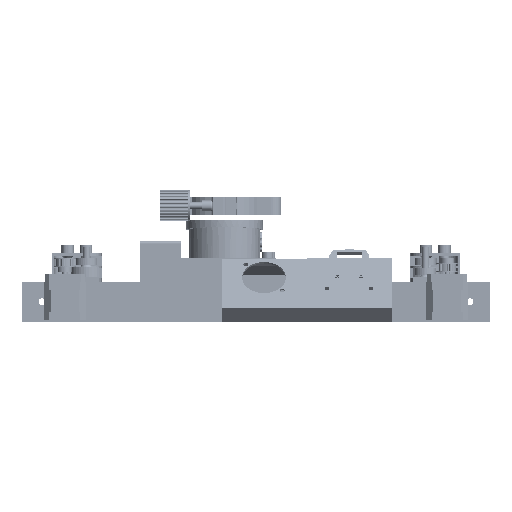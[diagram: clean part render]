
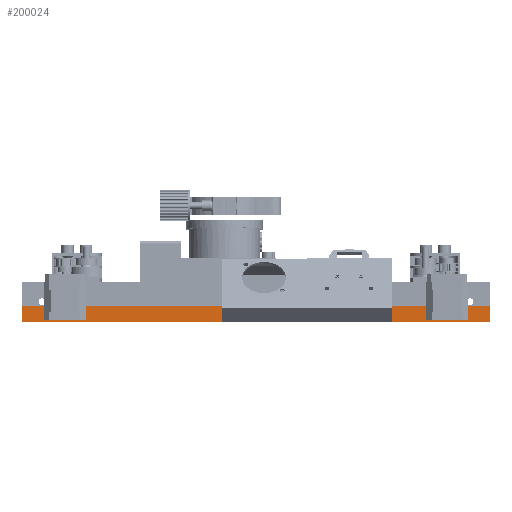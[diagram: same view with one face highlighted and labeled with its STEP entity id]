
A CAD part, front view. The second image highlights one B-rep face of the part: STEP entity #200024.
In plain terms, the highlighted planar face has unit normal (0, -1, 0).
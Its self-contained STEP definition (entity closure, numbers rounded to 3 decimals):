
#5244=FACE_OUTER_BOUND('',#19089,.T.);
#19089=EDGE_LOOP('',(#130773,#130774,#130775,#130776));
#36002=LINE('',#290052,#61293);
#36003=LINE('',#290055,#61294);
#36004=LINE('',#290057,#61295);
#36005=LINE('',#290058,#61296);
#61293=VECTOR('',#230589,10.);
#61294=VECTOR('',#230592,10.);
#61295=VECTOR('',#230593,10.);
#61296=VECTOR('',#230594,10.);
#86656=VERTEX_POINT('',#290048);
#86657=VERTEX_POINT('',#290050);
#86658=VERTEX_POINT('',#290054);
#86659=VERTEX_POINT('',#290056);
#102184=EDGE_CURVE('',#86656,#86657,#36002,.T.);
#102185=EDGE_CURVE('',#86658,#86656,#36003,.T.);
#102186=EDGE_CURVE('',#86659,#86657,#36004,.T.);
#102187=EDGE_CURVE('',#86658,#86659,#36005,.T.);
#130773=ORIENTED_EDGE('',*,*,#102185,.T.);
#130774=ORIENTED_EDGE('',*,*,#102184,.T.);
#130775=ORIENTED_EDGE('',*,*,#102186,.F.);
#130776=ORIENTED_EDGE('',*,*,#102187,.F.);
#187228=PLANE('',#214369);
#200024=ADVANCED_FACE('',(#5244),#187228,.T.);
#214369=AXIS2_PLACEMENT_3D('',#290053,#230590,#230591);
#230589=DIRECTION('',(1.,0.,0.));
#230590=DIRECTION('center_axis',(0.,-1.,0.));
#230591=DIRECTION('ref_axis',(0.,0.,-1.));
#230592=DIRECTION('',(0.,0.,-1.));
#230593=DIRECTION('',(0.,0.,-1.));
#230594=DIRECTION('',(1.,0.,0.));
#290048=CARTESIAN_POINT('',(0.,-20.,-20.));
#290050=CARTESIAN_POINT('',(470.,-20.,-20.));
#290052=CARTESIAN_POINT('',(0.,-20.,-20.));
#290053=CARTESIAN_POINT('Origin',(0.,-20.,-4.012));
#290054=CARTESIAN_POINT('',(0.,-20.,-4.012));
#290055=CARTESIAN_POINT('',(0.,-20.,-4.012));
#290056=CARTESIAN_POINT('',(470.,-20.,-4.012));
#290057=CARTESIAN_POINT('',(470.,-20.,-4.012));
#290058=CARTESIAN_POINT('',(0.,-20.,-4.012));
